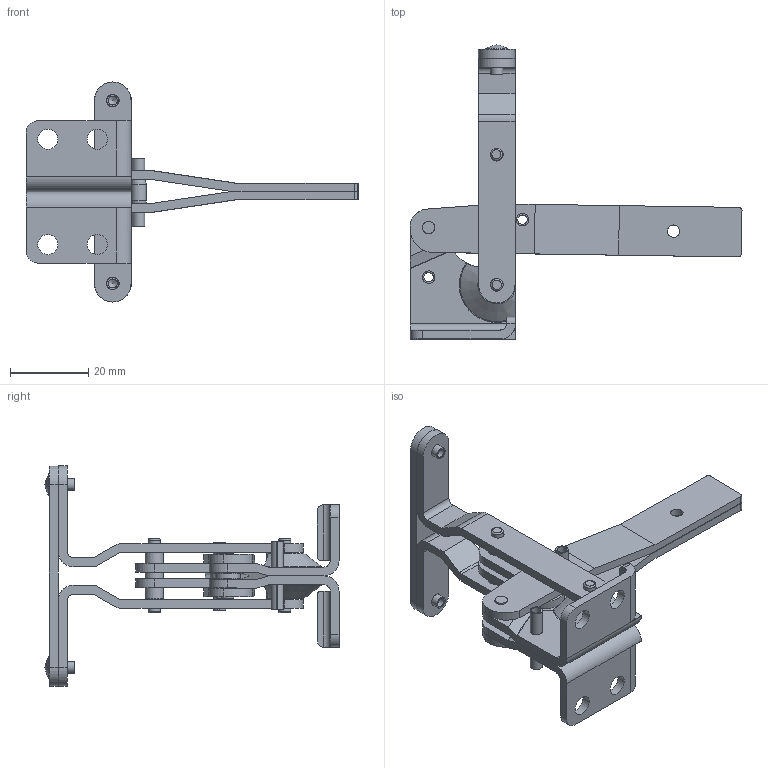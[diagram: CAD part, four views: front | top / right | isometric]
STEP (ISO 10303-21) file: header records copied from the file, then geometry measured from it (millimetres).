
FILE_DESCRIPTION(/* description */ (''),/* implementation_level */ '2;1');
FILE_NAME(/* name */ 'C:\Users\Nick\Desktop\tc-100\3D\tc-100.stp',/* time_stamp */ '2015-10-06T16:02:00-04:00',/* author */ ('Nick'),/* organization */ (''),/* preprocessor_version */ 'ST-DEVELOPER v16.1',/* originating_system */ 'AutoCAD Mechanical',/* authorisation */ '');
FILE_SCHEMA (('AUTOMOTIVE_DESIGN { 1 0 10303 214 3 1 1 }'));
Length unit declared in the file: inch
Products named in the file (1): Product
Bounding box: 85.09 x 75.36 x 56.4 mm (x, y, z)
Volume: 15650.9 mm3; surface area: 18597.8 mm2
Topology: 17 solids, 17 shells, 258 faces, 626 edges, 414 vertices
Faces by surface type: plane 124, cylinder 108, torus 12, cone 10, bspline 4
Full cylindrical faces by diameter (mm): 2.286 x2, 3.048 x2, 3.099 x8, 3.175 x3, 3.2 x2, 3.251 x10, 3.353 x1, 4.674 x4, 4.75 x2, 4.775 x2, 4.826 x8, 5.156 x4, 6.35 x2
Entity records: 7552 total; most frequent: CARTESIAN_POINT 1469, DIRECTION 1290, ORIENTED_EDGE 1116, EDGE_CURVE 558, AXIS2_PLACEMENT_3D 509, VERTEX_POINT 408, EDGE_LOOP 392, LINE 272
